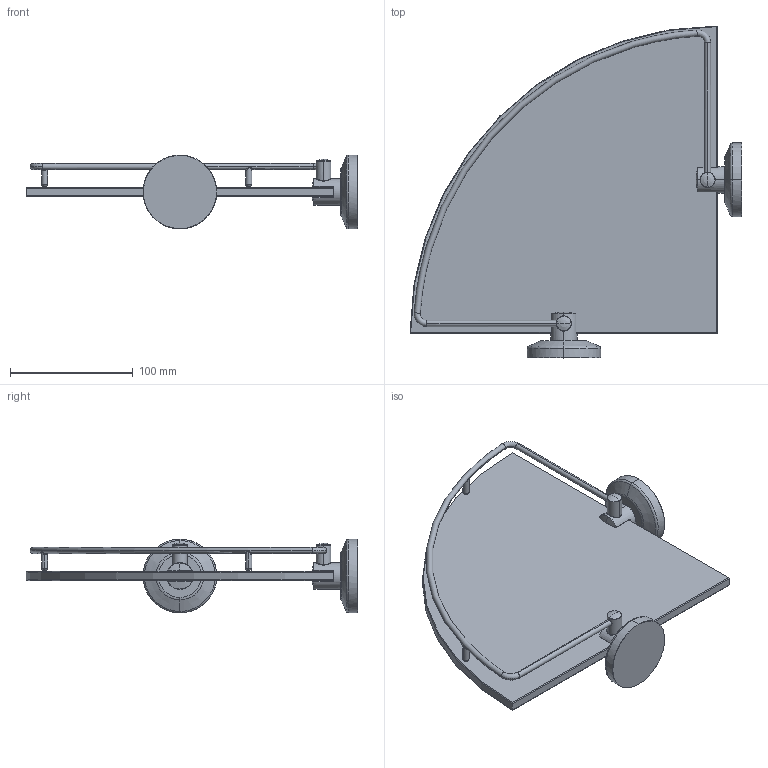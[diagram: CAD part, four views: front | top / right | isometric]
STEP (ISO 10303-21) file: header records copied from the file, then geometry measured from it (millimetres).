
FILE_DESCRIPTION(('THIS FILE CONTAINS SOME STEP INSTANCES'),'1');
FILE_NAME('sta_012.stp','2015-12-02T11:32:08',('UNDEFINED'),('UNDEFINED'),'T-FLEX CAD STEP converter','T-FLEX CAD','');
FILE_SCHEMA(('CONFIG_CONTROL_DESIGN'));
Length unit declared in the file: metre
Products named in the file (2): 3D 鐨飹懤艜_16; 610118
Bounding box: 270.25 x 270.25 x 60 mm (x, y, z)
Volume: 488048.7 mm3; surface area: 133976.4 mm2
Topology: 2 solids, 2 shells, 149 faces, 329 edges, 174 vertices
Faces by surface type: plane 40, cone 34, bspline 28, cylinder 21, torus 16, sphere 10
Entity records: 11319 total; most frequent: CARTESIAN_POINT 8586, ORIENTED_EDGE 634, DIRECTION 455, EDGE_CURVE 317, VERTEX_POINT 174, AXIS2_PLACEMENT_3D 165, EDGE_LOOP 151, ADVANCED_FACE 149
